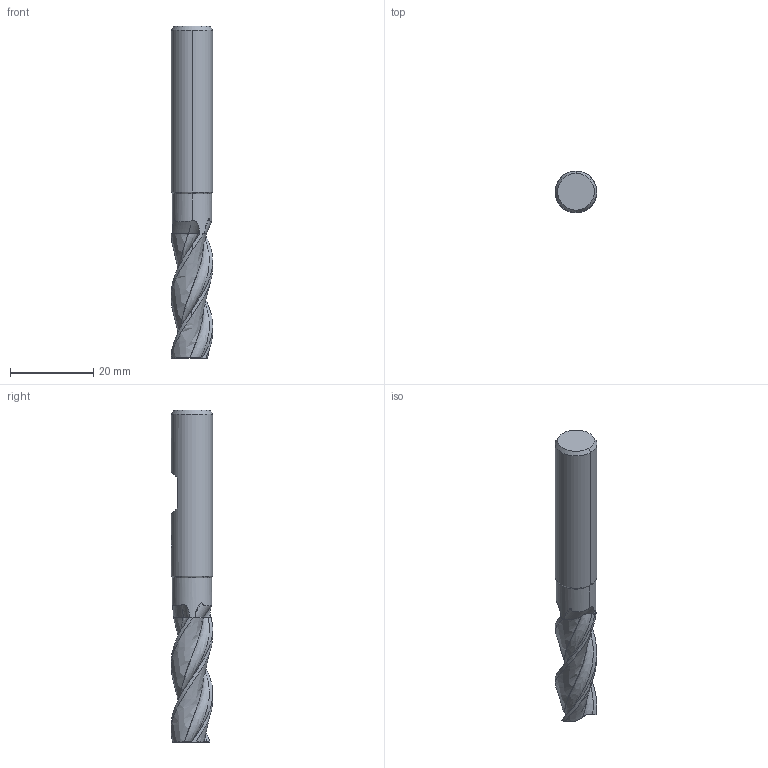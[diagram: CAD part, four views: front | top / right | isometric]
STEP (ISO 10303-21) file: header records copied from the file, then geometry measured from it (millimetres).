
FILE_DESCRIPTION(('no description'),'unknown implementation level');
FILE_NAME('solid71AXbuVPPZQZCQ_g02MuY5lSNu0_1.STP',' ',('CIMSOURCE GmbH'),('CADClick - KiM GmbH - www.kimweb.de'),'unknown preprocess','ACIS','unknown authorization');
FILE_SCHEMA(('automotive_design'));
Length unit declared in the file: millimetre
Products named in the file (2): NOCUT; CUT
Bounding box: 10 x 10 x 80 mm (x, y, z)
Volume: 5017.4 mm3; surface area: 3548.9 mm2
Topology: 2 solids, 2 shells, 112 faces, 306 edges, 197 vertices
Faces by surface type: bspline 36, plane 29, cone 19, cylinder 16, revolution 12
Entity records: 18834 total; most frequent: CARTESIAN_POINT 12933, STYLED_ITEM 617, PRESENTATION_STYLE_ASSIGNMENT 617, COLOUR_RGB 617, ORIENTED_EDGE 612, DIRECTION 355, EDGE_CURVE 306, CURVE_STYLE 306
